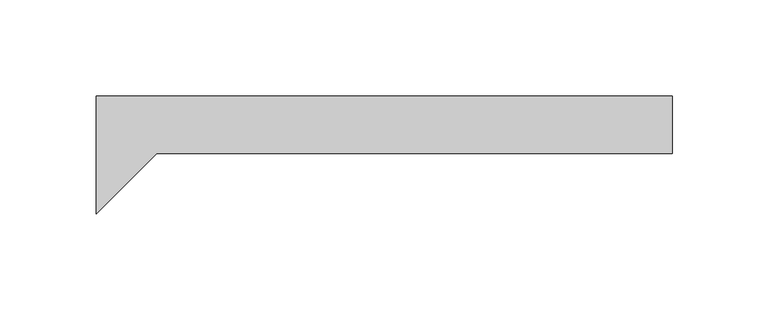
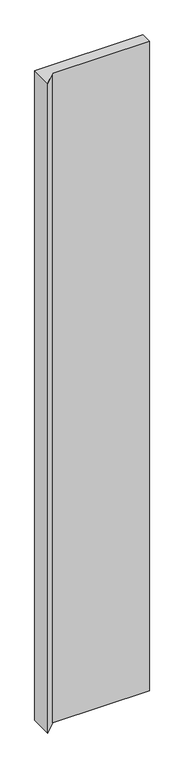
"""IFC4 building model written with IfcOpenShell, lengths in millimetres: plate geometry, ATELIERS 3S_EPURE CDB 300_VERTICAL : AZURO."""

from ifc_helpers import new_model, si_unit, origin, origin_with_axes, place, context, project, spatial, polyline, outline, extrude, source, transform, mapped, element, save


def plate_69c7ef5c(model_context):
    return source(origin(), model_context, "Body", "SweptSolid", [
        extrude(outline(polyline([(149.9999998, -29.9980469), (-118.292885, -29.9980469), (-150.0000002, -61.705162), (-150.0000002, 0.0), (149.9999998, 0.0), (149.9999998, -29.9980469)])), origin_with_axes(), (0.0, 0.0, 1.0), 1900.0),
    ])


if __name__ == "__main__":
    model = new_model("IFC4")
    model_context = context("Model", 3, world=origin())
    ifc_project = project(units=[si_unit("LENGTHUNIT", "METRE", prefix="MILLI")], contexts=[model_context])
    site = spatial("IfcSite", under=ifc_project)
    building = spatial("IfcBuilding", under=site)
    placement = place(None, origin())
    plate_shape = plate_69c7ef5c(model_context)
    element("IfcPlate", 1, ObjectType="ATELIERS 3S_EPURE CDB 300_VERTICAL : AZURO", at=placement, inside=building, context=model_context, shape_type="MappedRepresentation", body=[
        mapped(plate_shape, transform((0.0, 0.0, 0.0), x_axis=(1.0, 0.0, 0.0), y_axis=(0.0, 1.0, 0.0), z_axis=(0.0, 0.0, 1.0))),
    ])
    save(model, "model.ifc")
